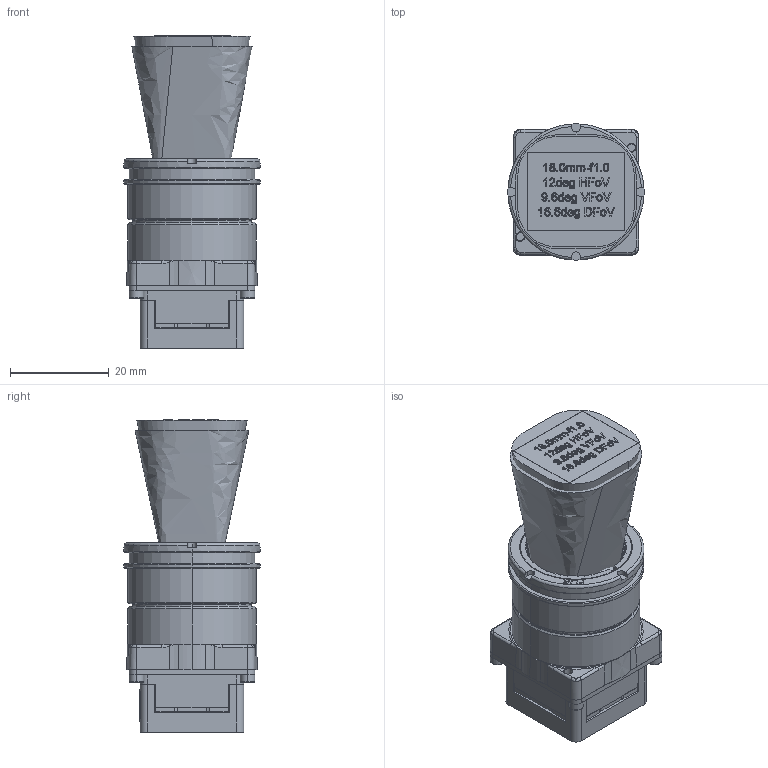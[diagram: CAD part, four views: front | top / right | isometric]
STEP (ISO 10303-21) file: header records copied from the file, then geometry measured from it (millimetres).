
FILE_DESCRIPTION (( 'STEP AP214' ), '1' );
FILE_NAME ('21-Boson 640SL, 18.0mm-f1.0, 12.2deg HFoV 9Hz.STEP', '2018-07-25T16:06:25', ( '' ), ( '' ), 'SwSTEP 2.0', 'SolidWorks 2018', '' );
FILE_SCHEMA (( 'AUTOMOTIVE_DESIGN' ));
Length unit declared in the file: millimetre
Products named in the file (13): Sensor Module, Boson 640; Label, Boson Camera 9Hz; Lens Holder, M24x0.5-BosonSL 640; 21-Boson 640SL, 18.0mm-f1.0, 12.2deg HFoV 9Hz; Screw SHC, M-1.6 x 0.35 x 4; Lens Assy, 18mm-f1.0.STEP; Adapter Plate, Boson 640 M24; Lens Assy, 18mm-f1.0, 12deg HFoV 9Hz.STEP; Boson Frame, Main Board; PCBA Boson Main; Optical Area 18mm-f1.0, Boson 320.STEP; Screw FLPH M1.6x0.35 x 6mm L; Lens Assy, 18mm-f1.0, 12deg HFoV 9Hz
Assembly tree (18 placements, depth 4):
  21-Boson 640SL, 18.0mm-f1.0, 12.2deg HFoV 9Hz
    Sensor Module, Boson 640
    Boson Frame, Main Board
    PCBA Boson Main
    Screw FLPH M1.6x0.35 x 6mm L  x4
    Label, Boson Camera 9Hz
    Screw SHC, M-1.6 x 0.35 x 4  x4
    Adapter Plate, Boson 640 M24
    Lens Holder, M24x0.5-BosonSL 640
    Lens Assy, 18mm-f1.0, 12deg HFoV 9Hz
      Lens Assy, 18mm-f1.0, 12deg HFoV 9Hz.STEP
        Lens Assy, 18mm-f1.0.STEP
        Optical Area 18mm-f1.0, Boson 320.STEP
Bounding box: 27.6 x 27.6 x 63.29 mm (x, y, z)
Volume: 30352.6 mm3; surface area: 17373.3 mm2
Topology: 18 solids, 19 shells, 3867 faces, 10344 edges, 6729 vertices
Faces by surface type: plane 2260, cylinder 649, bspline 634, cone 256, torus 68
Entity records: 170131 total; most frequent: CARTESIAN_POINT 55788, ORIENTED_EDGE 19850, DIRECTION 16226, EDGE_CURVE 9925, LINE 6846, VECTOR 6846, VERTEX_POINT 6507, AXIS2_PLACEMENT_3D 4690
